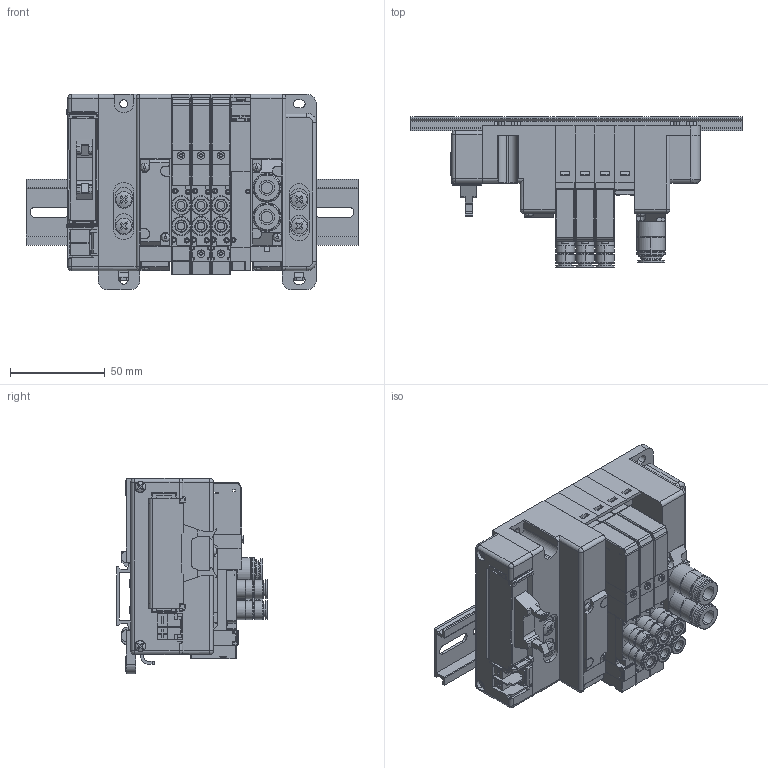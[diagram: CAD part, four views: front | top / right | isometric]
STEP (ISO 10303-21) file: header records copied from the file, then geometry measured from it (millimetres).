
FILE_DESCRIPTION( (''), '2;1');
FILE_NAME ('CVICAD02.9768.F10M4XP-JR-F10x-DN_10710.stp','2020-08-31T10:43:19',(''),(''),'spGate 12.6.6','','');
FILE_SCHEMA (('AUTOMOTIVE_DESIGN'));
Length unit declared in the file: millimetre
Products named in the file (19): Assembly; F10-PP; F10ZX_ValveBaseAssy; F10_VP; F10XBPP; F10ZX-LK-DN; F10ZX-RN-DN; DIN-RAIL175; F10_Adptor; F_3PortBody; F10_Cap; F10_SwitchBlock1; F_Connector-L; F10T_Body; F10_Port-FJ; F10_SwitchBlock; F10_Port-PJ; F10_DIN_配線ブロック_電源あり; 配線ブロック_F10x
Assembly tree (39 placements, depth 2):
  Assembly
    F10-PP  x3
    F10ZX_ValveBaseAssy  x4
    F10_VP  x4
    F10XBPP
    F10ZX-LK-DN
    F10ZX-RN-DN
    DIN-RAIL175
    F10_Adptor  x3
    F_3PortBody  x3
    F10_Cap  x3
    F10_SwitchBlock1
    F_Connector-L  x3
    F10T_Body  x3
    F10_Port-FJ  x3
    F10_SwitchBlock  x2
    F10_Port-PJ
    F10_DIN_配線ブロック_電源あり
    配線ブロック_F10x
Bounding box: 175 x 79.5 x 103 mm (x, y, z)
Volume: 386925.6 mm3; surface area: 165244.3 mm2
Topology: 38 solids, 39 shells, 3879 faces, 10580 edges, 7319 vertices
Faces by surface type: plane 2635, cylinder 933, bspline 273, sphere 38
Entity records: 114325 total; most frequent: CARTESIAN_POINT 14862, ORIENTED_EDGE 11585, DIRECTION 10491, COLOUR_RGB 7942, PRESENTATION_STYLE_ASSIGNMENT 7942, STYLED_ITEM 7942, EDGE_CURVE 5794, DRAUGHTING_PRE_DEFINED_CURVE_FONT 5794
